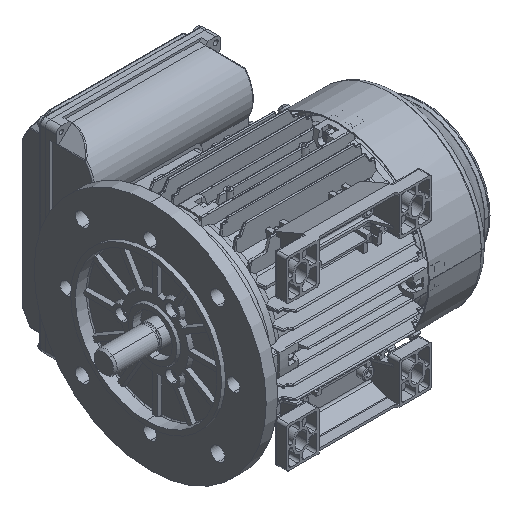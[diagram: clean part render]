
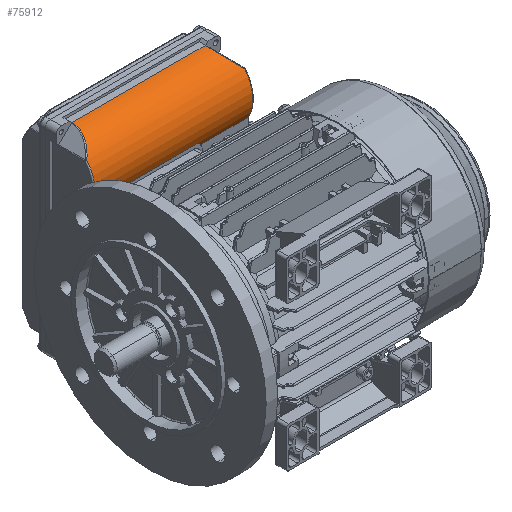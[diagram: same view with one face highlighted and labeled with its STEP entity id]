
A CAD part, isometric view. The second image highlights one B-rep face of the part: STEP entity #75912.
In plain terms, the highlighted cylindrical face has radius 30.5 mm (diameter 61 mm), a partial arc.
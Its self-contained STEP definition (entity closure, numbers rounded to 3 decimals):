
#1711 = EDGE_LOOP ( 'NONE', ( #104957, #59617, #46341, #19873, #88425, #92940, #5106, #88805, #29069, #124180 ) ) ;
#1721 = CARTESIAN_POINT ( 'NONE',  ( 129.306, 2.003, 130.675 ) ) ;
#1791 = CARTESIAN_POINT ( 'NONE',  ( 128.4, 2.5, 44.924 ) ) ;
#2919 = CARTESIAN_POINT ( 'NONE',  ( 129.528, 1.887, 130.551 ) ) ;
#2996 = EDGE_CURVE ( 'NONE', #57831, #71131, #59188, .T. ) ;
#3958 = EDGE_CURVE ( 'NONE', #6937, #93022, #50008, .T. ) ;
#5052 = CARTESIAN_POINT ( 'NONE',  ( 128.4, 2.5, 131.076 ) ) ;
#5106 = ORIENTED_EDGE ( 'NONE', *, *, #101430, .T. ) ;
#5300 = DIRECTION ( 'NONE',  ( 0., 0., -1. ) ) ;
#5717 = CARTESIAN_POINT ( 'NONE',  ( 130.166, 1.565, 45.852 ) ) ;
#6162 = CARTESIAN_POINT ( 'NONE',  ( 131.322, 1.034, 46.923 ) ) ;
#6937 = VERTEX_POINT ( 'NONE', #56725 ) ;
#7409 = CARTESIAN_POINT ( 'NONE',  ( 174., 19.752, 13.704 ) ) ;
#7464 =( BOUNDED_CURVE ( )  B_SPLINE_CURVE ( 3, ( #21787, #50793, #39869, #60390 ),
 .UNSPECIFIED., .F., .F. ) 
 B_SPLINE_CURVE_WITH_KNOTS ( ( 4, 4 ),
 ( 0., 0.88 ),
 .UNSPECIFIED. ) 
 CURVE ( )  GEOMETRIC_REPRESENTATION_ITEM ( )  RATIONAL_B_SPLINE_CURVE ( ( 1., 0.937, 0.937, 1. ) ) 
 REPRESENTATION_ITEM ( '' )  );
#11741 = CARTESIAN_POINT ( 'NONE',  ( 130.577, 1.37, 129.822 ) ) ;
#14841 = EDGE_CURVE ( 'NONE', #6937, #109066, #77070, .T. ) ;
#15006 = CARTESIAN_POINT ( 'NONE',  ( 131.654, 0.893, 47.338 ) ) ;
#16663 = CARTESIAN_POINT ( 'NONE',  ( 162.933, 5.492, 3. ) ) ;
#19873 = ORIENTED_EDGE ( 'NONE', *, *, #2996, .T. ) ;
#20028 = DIRECTION ( 'NONE',  ( 0., 0., -1. ) ) ;
#20113 = CYLINDRICAL_SURFACE ( 'NONE', #111068, 30.5 ) ;
#21636 = EDGE_CURVE ( 'NONE', #115700, #103073, #7464, .T. ) ;
#21787 = CARTESIAN_POINT ( 'NONE',  ( 174., 29., 128.296 ) ) ;
#21848 = EDGE_CURVE ( 'NONE', #51383, #109066, #95838, .T. ) ;
#22286 = CARTESIAN_POINT ( 'NONE',  ( 128.858, 2.243, 130.895 ) ) ;
#22348 = VECTOR ( 'NONE', #111534, 1000. ) ;
#23660 = VERTEX_POINT ( 'NONE', #50884 ) ;
#29069 = ORIENTED_EDGE ( 'NONE', *, *, #3958, .F. ) ;
#30927 = CARTESIAN_POINT ( 'NONE',  ( 128.4, 2.5, 142. ) ) ;
#31469 = VECTOR ( 'NONE', #48320, 1000. ) ;
#35583 = CARTESIAN_POINT ( 'NONE',  ( 132.449, 0.572, 48.764 ) ) ;
#35595 = DIRECTION ( 'NONE',  ( 0., 0., -1. ) ) ;
#38313 = CARTESIAN_POINT ( 'NONE',  ( 132.637, 0.5, 126.724 ) ) ;
#39376 = CARTESIAN_POINT ( 'NONE',  ( 143.5, 29., 142. ) ) ;
#39869 = CARTESIAN_POINT ( 'NONE',  ( 170.061, 11.385, 132.106 ) ) ;
#41060 = CARTESIAN_POINT ( 'NONE',  ( 174., 29., 13.704 ) ) ;
#42340 = DIRECTION ( 'NONE',  ( -1., 0., 0. ) ) ;
#42751 = DIRECTION ( 'NONE',  ( 0., 0., -1. ) ) ;
#45278 = CARTESIAN_POINT ( 'NONE',  ( 170.061, 11.385, 9.894 ) ) ;
#45955 = EDGE_CURVE ( 'NONE', #110283, #57831, #70212, .T. ) ;
#46107 = CARTESIAN_POINT ( 'NONE',  ( 174., 29., 13.704 ) ) ;
#46341 = ORIENTED_EDGE ( 'NONE', *, *, #45955, .T. ) ;
#47904 = AXIS2_PLACEMENT_3D ( 'NONE', #89597, #79947, #59478 ) ;
#47993 = CARTESIAN_POINT ( 'NONE',  ( 131.801, 0.833, 128.428 ) ) ;
#48320 = DIRECTION ( 'NONE',  ( 0., 0., -1. ) ) ;
#48695 = FACE_OUTER_BOUND ( 'NONE', #1711, .T. ) ;
#49617 = CARTESIAN_POINT ( 'NONE',  ( 132.214, 0.665, 127.734 ) ) ;
#50008 = B_SPLINE_CURVE_WITH_KNOTS ( 'NONE', 3,
 ( #38313, #116266, #107003, #49617, #105363, #47993, #115026, #60466, #117115, #11741, #101154, #2919, #1721, #22286, #52990, #5052 ),
 .UNSPECIFIED., .F., .F.,
 ( 4, 2, 2, 2, 2, 2, 2, 4 ),
 ( 0.011, 0.012, 0.013, 0.014, 0.014, 0.016, 0.017, 0.018 ),
 .UNSPECIFIED. ) ;
#50793 = CARTESIAN_POINT ( 'NONE',  ( 174., 19.752, 128.296 ) ) ;
#50884 = CARTESIAN_POINT ( 'NONE',  ( 128.4, 2.5, 139. ) ) ;
#51383 = VERTEX_POINT ( 'NONE', #1791 ) ;
#52990 = CARTESIAN_POINT ( 'NONE',  ( 128.631, 2.369, 130.992 ) ) ;
#53105 = VECTOR ( 'NONE', #35595, 1000. ) ;
#54086 = CARTESIAN_POINT ( 'NONE',  ( 128.862, 2.237, 45.093 ) ) ;
#56049 = VECTOR ( 'NONE', #20028, 1000. ) ;
#56725 = CARTESIAN_POINT ( 'NONE',  ( 132.637, 0.5, 126.724 ) ) ;
#57831 = VERTEX_POINT ( 'NONE', #94211 ) ;
#59188 =( BOUNDED_CURVE ( )  B_SPLINE_CURVE ( 3, ( #16663, #45278, #7409, #46107 ),
 .UNSPECIFIED., .F., .F. ) 
 B_SPLINE_CURVE_WITH_KNOTS ( ( 4, 4 ),
 ( 2.262, 3.142 ),
 .UNSPECIFIED. ) 
 CURVE ( )  GEOMETRIC_REPRESENTATION_ITEM ( )  RATIONAL_B_SPLINE_CURVE ( ( 1., 0.937, 0.937, 1. ) ) 
 REPRESENTATION_ITEM ( '' )  );
#59478 = DIRECTION ( 'NONE',  ( -1., 0., 0. ) ) ;
#59617 = ORIENTED_EDGE ( 'NONE', *, *, #96273, .T. ) ;
#60390 = CARTESIAN_POINT ( 'NONE',  ( 162.933, 5.492, 139. ) ) ;
#60466 = CARTESIAN_POINT ( 'NONE',  ( 131.315, 1.039, 129.063 ) ) ;
#62834 = CARTESIAN_POINT ( 'NONE',  ( 143.5, 29., 139. ) ) ;
#62849 = CARTESIAN_POINT ( 'NONE',  ( 128.4, 2.5, 44.924 ) ) ;
#64498 = CARTESIAN_POINT ( 'NONE',  ( 132.086, 0.716, 48.031 ) ) ;
#66716 = CARTESIAN_POINT ( 'NONE',  ( 174., 29., 142. ) ) ;
#70212 = CIRCLE ( 'NONE', #47904, 30.5 ) ;
#71131 = VERTEX_POINT ( 'NONE', #41060 ) ;
#72451 = DIRECTION ( 'NONE',  ( 1., 0., 0. ) ) ;
#72866 = CARTESIAN_POINT ( 'NONE',  ( 130.58, 1.369, 46.181 ) ) ;
#73329 = LINE ( 'NONE', #73724, #22348 ) ;
#73701 = CARTESIAN_POINT ( 'NONE',  ( 132.637, 0.5, 142. ) ) ;
#73724 = CARTESIAN_POINT ( 'NONE',  ( 128.4, 2.5, 142. ) ) ;
#74042 = CARTESIAN_POINT ( 'NONE',  ( 174., 29., 128.296 ) ) ;
#75912 = ADVANCED_FACE ( 'NONE', ( #48695 ), #20113, .T. ) ;
#77070 = LINE ( 'NONE', #73701, #53105 ) ;
#79947 = DIRECTION ( 'NONE',  ( 0., 0., 1. ) ) ;
#82078 = CARTESIAN_POINT ( 'NONE',  ( 132.55, 0.533, 49.016 ) ) ;
#85811 = CARTESIAN_POINT ( 'NONE',  ( 162.933, 5.492, 139. ) ) ;
#86121 = EDGE_CURVE ( 'NONE', #115700, #71131, #95942, .T. ) ;
#88425 = ORIENTED_EDGE ( 'NONE', *, *, #86121, .F. ) ;
#88805 = ORIENTED_EDGE ( 'NONE', *, *, #124440, .T. ) ;
#89597 = CARTESIAN_POINT ( 'NONE',  ( 143.5, 29., 3. ) ) ;
#92940 = ORIENTED_EDGE ( 'NONE', *, *, #21636, .T. ) ;
#93000 = CARTESIAN_POINT ( 'NONE',  ( 132.217, 0.663, 48.272 ) ) ;
#93022 = VERTEX_POINT ( 'NONE', #121020 ) ;
#94211 = CARTESIAN_POINT ( 'NONE',  ( 162.933, 5.492, 3. ) ) ;
#95838 = B_SPLINE_CURVE_WITH_KNOTS ( 'NONE', 3,
 ( #62849, #54086, #122005, #5717, #72866, #6162, #15006, #64498, #93000, #35583, #82078, #102659 ),
 .UNSPECIFIED., .F., .F.,
 ( 4, 2, 2, 2, 2, 4 ),
 ( 0., 0.002, 0.003, 0.005, 0.006, 0.007 ),
 .UNSPECIFIED. ) ;
#95942 = LINE ( 'NONE', #66716, #31469 ) ;
#96273 = EDGE_CURVE ( 'NONE', #51383, #110283, #107010, .T. ) ;
#100706 = CARTESIAN_POINT ( 'NONE',  ( 132.637, 0.5, 49.276 ) ) ;
#101154 = CARTESIAN_POINT ( 'NONE',  ( 130.174, 1.561, 130.143 ) ) ;
#101430 = EDGE_CURVE ( 'NONE', #103073, #23660, #109343, .T. ) ;
#102659 = CARTESIAN_POINT ( 'NONE',  ( 132.637, 0.5, 49.276 ) ) ;
#103073 = VERTEX_POINT ( 'NONE', #85811 ) ;
#104957 = ORIENTED_EDGE ( 'NONE', *, *, #21848, .F. ) ;
#105363 = CARTESIAN_POINT ( 'NONE',  ( 132.084, 0.716, 127.972 ) ) ;
#107003 = CARTESIAN_POINT ( 'NONE',  ( 132.448, 0.573, 127.238 ) ) ;
#107010 = LINE ( 'NONE', #30927, #56049 ) ;
#109066 = VERTEX_POINT ( 'NONE', #100706 ) ;
#109343 = CIRCLE ( 'NONE', #120083, 30.5 ) ;
#110283 = VERTEX_POINT ( 'NONE', #114679 ) ;
#111068 = AXIS2_PLACEMENT_3D ( 'NONE', #39376, #42751, #42340 ) ;
#111534 = DIRECTION ( 'NONE',  ( 0., 0., -1. ) ) ;
#114679 = CARTESIAN_POINT ( 'NONE',  ( 128.4, 2.5, 3. ) ) ;
#115026 = CARTESIAN_POINT ( 'NONE',  ( 131.646, 0.897, 128.646 ) ) ;
#115700 = VERTEX_POINT ( 'NONE', #74042 ) ;
#116266 = CARTESIAN_POINT ( 'NONE',  ( 132.55, 0.533, 126.983 ) ) ;
#117115 = CARTESIAN_POINT ( 'NONE',  ( 131.136, 1.118, 129.264 ) ) ;
#120083 = AXIS2_PLACEMENT_3D ( 'NONE', #62834, #5300, #72451 ) ;
#121020 = CARTESIAN_POINT ( 'NONE',  ( 128.4, 2.5, 131.076 ) ) ;
#122005 = CARTESIAN_POINT ( 'NONE',  ( 129.309, 1.998, 45.311 ) ) ;
#124180 = ORIENTED_EDGE ( 'NONE', *, *, #14841, .T. ) ;
#124440 = EDGE_CURVE ( 'NONE', #23660, #93022, #73329, .T. ) ;
